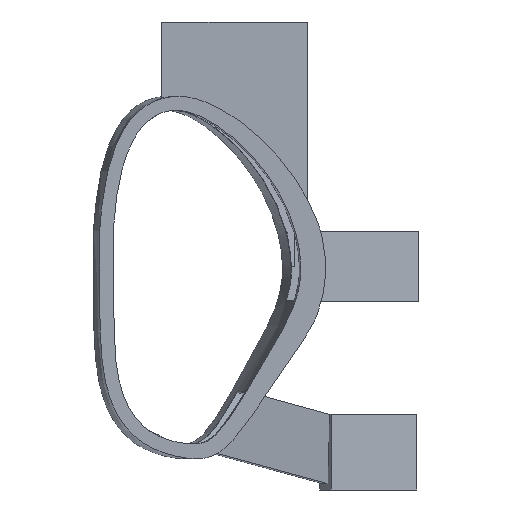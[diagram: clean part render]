
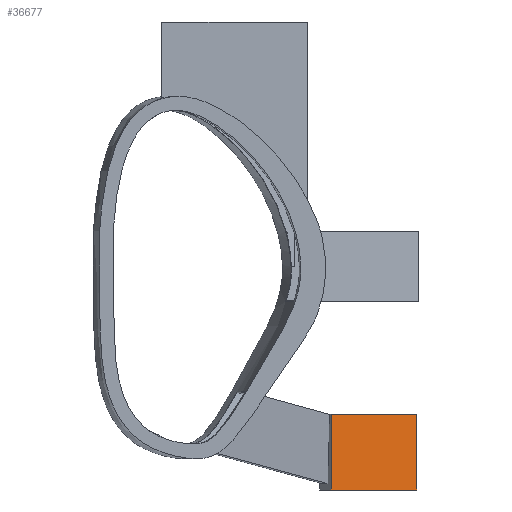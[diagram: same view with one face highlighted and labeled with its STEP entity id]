
A CAD part, front view. The second image highlights one B-rep face of the part: STEP entity #36677.
In plain terms, the highlighted planar face has unit normal (0.174, -0.985, 0).
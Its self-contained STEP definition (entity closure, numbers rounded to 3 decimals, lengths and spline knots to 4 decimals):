
#14699 = PLANE('',#14700);
#14700 = AXIS2_PLACEMENT_3D('',#14701,#14702,#14703);
#14701 = CARTESIAN_POINT('',(14.6212,2.5781,
    -8.2481));
#14702 = DIRECTION('',(-0.985,-0.174,-0.));
#14703 = DIRECTION('',(0.,0.,-1.));
#14772 = PLANE('',#14773);
#14773 = AXIS2_PLACEMENT_3D('',#14774,#14775,#14776);
#14774 = CARTESIAN_POINT('',(16.5252,2.9138,
    -6.5681));
#14775 = DIRECTION('',(0.,0.,1.));
#14776 = DIRECTION('',(0.985,0.174,0.));
#28074 = VERTEX_POINT('',#28075);
#28075 = CARTESIAN_POINT('',(14.8695,1.1698,
    -9.9281));
#28089 = PLANE('',#28090);
#28090 = AXIS2_PLACEMENT_3D('',#28091,#28092,#28093);
#28091 = CARTESIAN_POINT('',(16.5252,2.9138,
    -9.9281));
#28092 = DIRECTION('',(0.,-0.,-1.));
#28093 = DIRECTION('',(-0.985,-0.174,0.));
#28101 = EDGE_CURVE('',#28074,#28102,#28104,.T.);
#28102 = VERTEX_POINT('',#28103);
#28103 = CARTESIAN_POINT('',(14.8695,1.1698,
    -6.5681));
#28104 = SURFACE_CURVE('',#28105,(#28109,#28116),.PCURVE_S1.);
#28105 = LINE('',#28106,#28107);
#28106 = CARTESIAN_POINT('',(14.8695,1.1698,
    -9.9981));
#28107 = VECTOR('',#28108,1.);
#28108 = DIRECTION('',(0.,0.,1.));
#28109 = PCURVE('',#14699,#28110);
#28110 = DEFINITIONAL_REPRESENTATION('',(#28111),#28115);
#28111 = LINE('',#28112,#28113);
#28112 = CARTESIAN_POINT('',(1.75,1.43));
#28113 = VECTOR('',#28114,1.);
#28114 = DIRECTION('',(-1.,0.));
#28115 = ( GEOMETRIC_REPRESENTATION_CONTEXT(2) 
PARAMETRIC_REPRESENTATION_CONTEXT() REPRESENTATION_CONTEXT('2D SPACE',''
  ) );
#28116 = PCURVE('',#28117,#28122);
#28117 = PLANE('',#28118);
#28118 = AXIS2_PLACEMENT_3D('',#28119,#28120,#28121);
#28119 = CARTESIAN_POINT('',(16.7735,1.5056,
    -8.2481));
#28120 = DIRECTION('',(0.174,-0.985,-0.));
#28121 = DIRECTION('',(0.,0.,-1.));
#28122 = DEFINITIONAL_REPRESENTATION('',(#28123),#28127);
#28123 = LINE('',#28124,#28125);
#28124 = CARTESIAN_POINT('',(1.75,-1.933));
#28125 = VECTOR('',#28126,1.);
#28126 = DIRECTION('',(-1.,0.));
#28127 = ( GEOMETRIC_REPRESENTATION_CONTEXT(2) 
PARAMETRIC_REPRESENTATION_CONTEXT() REPRESENTATION_CONTEXT('2D SPACE',''
  ) );
#28156 = EDGE_CURVE('',#28157,#28102,#28159,.T.);
#28157 = VERTEX_POINT('',#28158);
#28158 = CARTESIAN_POINT('',(18.6775,1.8413,
    -6.5681));
#28159 = SURFACE_CURVE('',#28160,(#28164,#28171),.PCURVE_S1.);
#28160 = LINE('',#28161,#28162);
#28161 = CARTESIAN_POINT('',(14.9286,1.1803,
    -6.5681));
#28162 = VECTOR('',#28163,1.);
#28163 = DIRECTION('',(-0.985,-0.174,-0.));
#28164 = PCURVE('',#14772,#28165);
#28165 = DEFINITIONAL_REPRESENTATION('',(#28166),#28170);
#28166 = LINE('',#28167,#28168);
#28167 = CARTESIAN_POINT('',(-1.873,-1.43));
#28168 = VECTOR('',#28169,1.);
#28169 = DIRECTION('',(-1.,0.));
#28170 = ( GEOMETRIC_REPRESENTATION_CONTEXT(2) 
PARAMETRIC_REPRESENTATION_CONTEXT() REPRESENTATION_CONTEXT('2D SPACE',''
  ) );
#28171 = PCURVE('',#28117,#28172);
#28172 = DEFINITIONAL_REPRESENTATION('',(#28173),#28177);
#28173 = LINE('',#28174,#28175);
#28174 = CARTESIAN_POINT('',(-1.68,-1.873));
#28175 = VECTOR('',#28176,1.);
#28176 = DIRECTION('',(0.,-1.));
#28177 = ( GEOMETRIC_REPRESENTATION_CONTEXT(2) 
PARAMETRIC_REPRESENTATION_CONTEXT() REPRESENTATION_CONTEXT('2D SPACE',''
  ) );
#28195 = PLANE('',#28196);
#28196 = AXIS2_PLACEMENT_3D('',#28197,#28198,#28199);
#28197 = CARTESIAN_POINT('',(18.4292,3.2496,
    -8.2481));
#28198 = DIRECTION('',(-0.985,-0.174,-0.));
#28199 = DIRECTION('',(0.,0.,-1.));
#36677 = ADVANCED_FACE('',(#36678),#28117,.T.);
#36678 = FACE_BOUND('',#36679,.T.);
#36679 = EDGE_LOOP('',(#36680,#36703,#36724,#36725));
#36680 = ORIENTED_EDGE('',*,*,#36681,.T.);
#36681 = EDGE_CURVE('',#28074,#36682,#36684,.T.);
#36682 = VERTEX_POINT('',#36683);
#36683 = CARTESIAN_POINT('',(18.6775,1.8413,
    -9.9281));
#36684 = SURFACE_CURVE('',#36685,(#36689,#36696),.PCURVE_S1.);
#36685 = LINE('',#36686,#36687);
#36686 = CARTESIAN_POINT('',(14.9286,1.1803,
    -9.9281));
#36687 = VECTOR('',#36688,1.);
#36688 = DIRECTION('',(0.985,0.174,0.));
#36689 = PCURVE('',#28117,#36690);
#36690 = DEFINITIONAL_REPRESENTATION('',(#36691),#36695);
#36691 = LINE('',#36692,#36693);
#36692 = CARTESIAN_POINT('',(1.68,-1.873));
#36693 = VECTOR('',#36694,1.);
#36694 = DIRECTION('',(0.,1.));
#36695 = ( GEOMETRIC_REPRESENTATION_CONTEXT(2) 
PARAMETRIC_REPRESENTATION_CONTEXT() REPRESENTATION_CONTEXT('2D SPACE',''
  ) );
#36696 = PCURVE('',#28089,#36697);
#36697 = DEFINITIONAL_REPRESENTATION('',(#36698),#36702);
#36698 = LINE('',#36699,#36700);
#36699 = CARTESIAN_POINT('',(1.873,-1.43));
#36700 = VECTOR('',#36701,1.);
#36701 = DIRECTION('',(-1.,0.));
#36702 = ( GEOMETRIC_REPRESENTATION_CONTEXT(2) 
PARAMETRIC_REPRESENTATION_CONTEXT() REPRESENTATION_CONTEXT('2D SPACE',''
  ) );
#36703 = ORIENTED_EDGE('',*,*,#36704,.T.);
#36704 = EDGE_CURVE('',#36682,#28157,#36705,.T.);
#36705 = SURFACE_CURVE('',#36706,(#36710,#36717),.PCURVE_S1.);
#36706 = LINE('',#36707,#36708);
#36707 = CARTESIAN_POINT('',(18.6775,1.8413,
    -9.9981));
#36708 = VECTOR('',#36709,1.);
#36709 = DIRECTION('',(0.,0.,1.));
#36710 = PCURVE('',#28117,#36711);
#36711 = DEFINITIONAL_REPRESENTATION('',(#36712),#36716);
#36712 = LINE('',#36713,#36714);
#36713 = CARTESIAN_POINT('',(1.75,1.933));
#36714 = VECTOR('',#36715,1.);
#36715 = DIRECTION('',(-1.,0.));
#36716 = ( GEOMETRIC_REPRESENTATION_CONTEXT(2) 
PARAMETRIC_REPRESENTATION_CONTEXT() REPRESENTATION_CONTEXT('2D SPACE',''
  ) );
#36717 = PCURVE('',#28195,#36718);
#36718 = DEFINITIONAL_REPRESENTATION('',(#36719),#36723);
#36719 = LINE('',#36720,#36721);
#36720 = CARTESIAN_POINT('',(1.75,1.43));
#36721 = VECTOR('',#36722,1.);
#36722 = DIRECTION('',(-1.,0.));
#36723 = ( GEOMETRIC_REPRESENTATION_CONTEXT(2) 
PARAMETRIC_REPRESENTATION_CONTEXT() REPRESENTATION_CONTEXT('2D SPACE',''
  ) );
#36724 = ORIENTED_EDGE('',*,*,#28156,.T.);
#36725 = ORIENTED_EDGE('',*,*,#28101,.F.);
